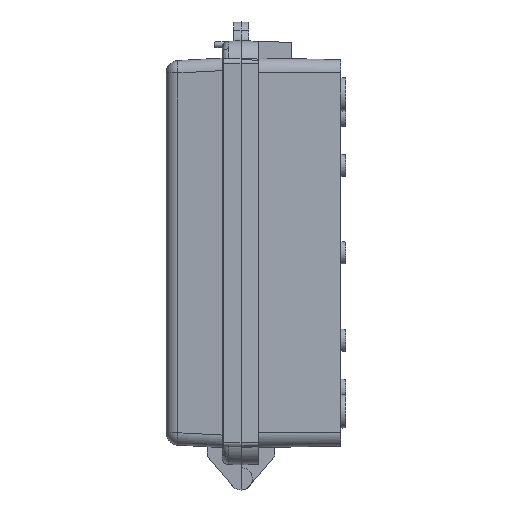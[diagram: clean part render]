
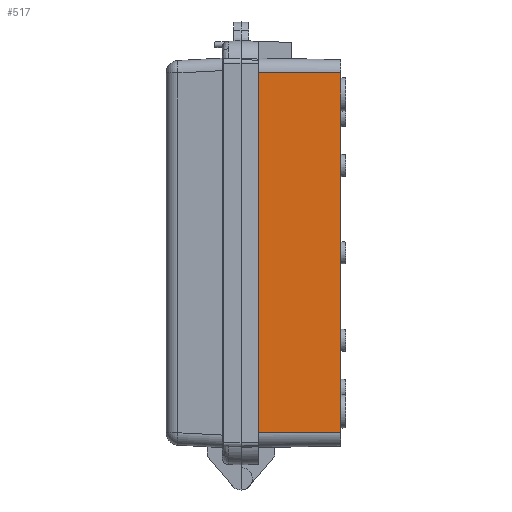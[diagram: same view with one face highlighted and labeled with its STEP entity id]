
A CAD part, left-side view. The second image highlights one B-rep face of the part: STEP entity #517.
In plain terms, the highlighted planar face has unit normal (-1, -0.018, 0).
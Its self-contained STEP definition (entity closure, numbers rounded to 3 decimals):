
#182 = VECTOR ( 'NONE', #11314, 1000. ) ;
#270 = LINE ( 'NONE', #14695, #4671 ) ;
#517 = ADVANCED_FACE ( 'NONE', ( #22492 ), #23178, .T. ) ;
#626 = DIRECTION ( 'NONE',  ( 0.017, -0.996, -0.087 ) ) ;
#687 = CARTESIAN_POINT ( 'NONE',  ( -102.946, -10.072, 0.781 ) ) ;
#738 = LINE ( 'NONE', #7949, #3928 ) ;
#1153 = CARTESIAN_POINT ( 'NONE',  ( -103., -7., -80.079 ) ) ;
#1771 = VERTEX_POINT ( 'NONE', #2602 ) ;
#2450 = VECTOR ( 'NONE', #19117, 1000. ) ;
#2560 = VERTEX_POINT ( 'NONE', #14564 ) ;
#2602 = CARTESIAN_POINT ( 'NONE',  ( -103., -7., 1.05 ) ) ;
#2687 = CARTESIAN_POINT ( 'NONE',  ( -103.07, -3., -80.079 ) ) ;
#2876 = DIRECTION ( 'NONE',  ( 0.017, -1., 0. ) ) ;
#2931 = LINE ( 'NONE', #12257, #22420 ) ;
#3139 = ORIENTED_EDGE ( 'NONE', *, *, #18903, .T. ) ;
#3262 = EDGE_CURVE ( 'NONE', #6326, #20591, #12348, .T. ) ;
#3379 = EDGE_CURVE ( 'NONE', #11798, #7036, #5727, .T. ) ;
#3797 = LINE ( 'NONE', #17869, #4330 ) ;
#3928 = VECTOR ( 'NONE', #9851, 1000. ) ;
#4330 = VECTOR ( 'NONE', #11131, 1000. ) ;
#4584 = LINE ( 'NONE', #2687, #2450 ) ;
#4671 = VECTOR ( 'NONE', #16121, 1000. ) ;
#5107 = CARTESIAN_POINT ( 'NONE',  ( -103.07, -3., -58.6 ) ) ;
#5114 = ORIENTED_EDGE ( 'NONE', *, *, #3262, .T. ) ;
#5355 = ORIENTED_EDGE ( 'NONE', *, *, #13994, .T. ) ;
#5429 = VECTOR ( 'NONE', #2876, 1000. ) ;
#5727 = LINE ( 'NONE', #21817, #8264 ) ;
#5750 = CARTESIAN_POINT ( 'NONE',  ( -103., -7., 61.05 ) ) ;
#5922 = CARTESIAN_POINT ( 'NONE',  ( -103.07, -3., -61.4 ) ) ;
#6096 = ORIENTED_EDGE ( 'NONE', *, *, #14063, .T. ) ;
#6283 = DIRECTION ( 'NONE',  ( 0., 0., -1. ) ) ;
#6326 = VERTEX_POINT ( 'NONE', #21040 ) ;
#6392 = ORIENTED_EDGE ( 'NONE', *, *, #19018, .T. ) ;
#6463 = EDGE_CURVE ( 'NONE', #7036, #10058, #7074, .T. ) ;
#6620 = EDGE_CURVE ( 'NONE', #14678, #19859, #20425, .T. ) ;
#6793 = ORIENTED_EDGE ( 'NONE', *, *, #13205, .T. ) ;
#6833 = EDGE_LOOP ( 'NONE', ( #16767, #15229, #6392, #3139, #5114, #15879, #13711, #20091, #6096, #22334, #5355, #17579, #6793, #11580, #8570, #19823 ) ) ;
#7036 = VERTEX_POINT ( 'NONE', #11408 ) ;
#7074 = LINE ( 'NONE', #8968, #15772 ) ;
#7728 = LINE ( 'NONE', #11510, #5429 ) ;
#7876 = CARTESIAN_POINT ( 'NONE',  ( -103.28, 9.037, 57.547 ) ) ;
#7949 = CARTESIAN_POINT ( 'NONE',  ( -103., -7., -80.079 ) ) ;
#8264 = VECTOR ( 'NONE', #18137, 1000. ) ;
#8568 = VERTEX_POINT ( 'NONE', #5107 ) ;
#8570 = ORIENTED_EDGE ( 'NONE', *, *, #12699, .T. ) ;
#8968 = CARTESIAN_POINT ( 'NONE',  ( -103.098, -1.379, -61.542 ) ) ;
#9083 = DIRECTION ( 'NONE',  ( -0.017, 0.996, -0.087 ) ) ;
#9617 = CARTESIAN_POINT ( 'NONE',  ( -103.037, -4.864, -58.763 ) ) ;
#9620 = EDGE_CURVE ( 'NONE', #20591, #2560, #270, .T. ) ;
#9851 = DIRECTION ( 'NONE',  ( 0., 0., -1. ) ) ;
#9933 = CARTESIAN_POINT ( 'NONE',  ( -103.07, -3., 58.6 ) ) ;
#10008 = CARTESIAN_POINT ( 'NONE',  ( -103., -7., -1.05 ) ) ;
#10058 = VERTEX_POINT ( 'NONE', #5922 ) ;
#10149 = LINE ( 'NONE', #1153, #18307 ) ;
#10460 = VERTEX_POINT ( 'NONE', #18859 ) ;
#10596 = DIRECTION ( 'NONE',  ( 0., 0., 1. ) ) ;
#10908 = EDGE_CURVE ( 'NONE', #15705, #13381, #20737, .T. ) ;
#11131 = DIRECTION ( 'NONE',  ( 0., 0., -1. ) ) ;
#11314 = DIRECTION ( 'NONE',  ( -0.017, 0.996, -0.087 ) ) ;
#11408 = CARTESIAN_POINT ( 'NONE',  ( -103., -7., -61.05 ) ) ;
#11510 = CARTESIAN_POINT ( 'NONE',  ( -103.07, -3., -72.071 ) ) ;
#11580 = ORIENTED_EDGE ( 'NONE', *, *, #10908, .T. ) ;
#11798 = VERTEX_POINT ( 'NONE', #12597 ) ;
#11812 = CARTESIAN_POINT ( 'NONE',  ( -103.07, -3., 61.4 ) ) ;
#12070 = AXIS2_PLACEMENT_3D ( 'NONE', #16207, #15854, #21291 ) ;
#12257 = CARTESIAN_POINT ( 'NONE',  ( -103.07, -3., -80.079 ) ) ;
#12348 = LINE ( 'NONE', #12470, #16186 ) ;
#12367 = CARTESIAN_POINT ( 'NONE',  ( -103.07, -3., -72.071 ) ) ;
#12470 = CARTESIAN_POINT ( 'NONE',  ( -102.424, -40., -80.079 ) ) ;
#12597 = CARTESIAN_POINT ( 'NONE',  ( -103., -7., -58.95 ) ) ;
#12699 = EDGE_CURVE ( 'NONE', #13381, #8568, #2931, .T. ) ;
#12741 = VECTOR ( 'NONE', #22073, 1000. ) ;
#13205 = EDGE_CURVE ( 'NONE', #1771, #15705, #738, .T. ) ;
#13381 = VERTEX_POINT ( 'NONE', #13854 ) ;
#13632 = VERTEX_POINT ( 'NONE', #9933 ) ;
#13711 = ORIENTED_EDGE ( 'NONE', *, *, #18047, .T. ) ;
#13798 = DIRECTION ( 'NONE',  ( 0., 0., -1. ) ) ;
#13854 = CARTESIAN_POINT ( 'NONE',  ( -103.07, -3., -1.4 ) ) ;
#13994 = EDGE_CURVE ( 'NONE', #13632, #15257, #4584, .T. ) ;
#14063 = EDGE_CURVE ( 'NONE', #19859, #10460, #10149, .T. ) ;
#14564 = CARTESIAN_POINT ( 'NONE',  ( -103.07, -3., 72.071 ) ) ;
#14678 = VERTEX_POINT ( 'NONE', #11812 ) ;
#14695 = CARTESIAN_POINT ( 'NONE',  ( -103.07, -3., 72.071 ) ) ;
#14785 = CARTESIAN_POINT ( 'NONE',  ( -103.07, -3., -80.079 ) ) ;
#14906 = LINE ( 'NONE', #14785, #17116 ) ;
#15229 = ORIENTED_EDGE ( 'NONE', *, *, #6463, .T. ) ;
#15257 = VERTEX_POINT ( 'NONE', #21023 ) ;
#15373 = VERTEX_POINT ( 'NONE', #12367 ) ;
#15705 = VERTEX_POINT ( 'NONE', #10008 ) ;
#15772 = VECTOR ( 'NONE', #9083, 1000. ) ;
#15854 = DIRECTION ( 'NONE',  ( -1., -0.017, 0. ) ) ;
#15879 = ORIENTED_EDGE ( 'NONE', *, *, #9620, .T. ) ;
#16121 = DIRECTION ( 'NONE',  ( -0.017, 1., 0. ) ) ;
#16186 = VECTOR ( 'NONE', #10596, 1000. ) ;
#16207 = CARTESIAN_POINT ( 'NONE',  ( -103.07, -3., -80.079 ) ) ;
#16744 = CARTESIAN_POINT ( 'NONE',  ( -102.855, -15.28, 60.326 ) ) ;
#16767 = ORIENTED_EDGE ( 'NONE', *, *, #3379, .T. ) ;
#17116 = VECTOR ( 'NONE', #6283, 1000. ) ;
#17579 = ORIENTED_EDGE ( 'NONE', *, *, #18469, .T. ) ;
#17651 = VECTOR ( 'NONE', #18834, 1000. ) ;
#17756 = EDGE_CURVE ( 'NONE', #8568, #11798, #20386, .T. ) ;
#17869 = CARTESIAN_POINT ( 'NONE',  ( -103.07, -3., -80.079 ) ) ;
#17872 = VECTOR ( 'NONE', #18301, 1000. ) ;
#18047 = EDGE_CURVE ( 'NONE', #2560, #14678, #14906, .T. ) ;
#18137 = DIRECTION ( 'NONE',  ( 0., 0., -1. ) ) ;
#18301 = DIRECTION ( 'NONE',  ( 0.017, -0.996, -0.087 ) ) ;
#18307 = VECTOR ( 'NONE', #13798, 1000. ) ;
#18469 = EDGE_CURVE ( 'NONE', #15257, #1771, #20082, .T. ) ;
#18834 = DIRECTION ( 'NONE',  ( -0.017, 0.996, -0.087 ) ) ;
#18859 = CARTESIAN_POINT ( 'NONE',  ( -103., -7., 58.95 ) ) ;
#18903 = EDGE_CURVE ( 'NONE', #15373, #6326, #7728, .T. ) ;
#19018 = EDGE_CURVE ( 'NONE', #10058, #15373, #3797, .T. ) ;
#19117 = DIRECTION ( 'NONE',  ( 0., 0., -1. ) ) ;
#19475 = CARTESIAN_POINT ( 'NONE',  ( -102.424, -40., 72.071 ) ) ;
#19823 = ORIENTED_EDGE ( 'NONE', *, *, #17756, .T. ) ;
#19859 = VERTEX_POINT ( 'NONE', #5750 ) ;
#19920 = EDGE_CURVE ( 'NONE', #10460, #13632, #20173, .T. ) ;
#20082 = LINE ( 'NONE', #687, #17872 ) ;
#20091 = ORIENTED_EDGE ( 'NONE', *, *, #6620, .T. ) ;
#20173 = LINE ( 'NONE', #7876, #182 ) ;
#20386 = LINE ( 'NONE', #9617, #22644 ) ;
#20425 = LINE ( 'NONE', #16744, #12741 ) ;
#20591 = VERTEX_POINT ( 'NONE', #19475 ) ;
#20737 = LINE ( 'NONE', #20852, #17651 ) ;
#20852 = CARTESIAN_POINT ( 'NONE',  ( -103.189, 3.829, -1.997 ) ) ;
#20908 = DIRECTION ( 'NONE',  ( 0., 0., -1. ) ) ;
#21023 = CARTESIAN_POINT ( 'NONE',  ( -103.07, -3., 1.4 ) ) ;
#21040 = CARTESIAN_POINT ( 'NONE',  ( -102.424, -40., -72.071 ) ) ;
#21291 = DIRECTION ( 'NONE',  ( 0.017, -1., 0. ) ) ;
#21817 = CARTESIAN_POINT ( 'NONE',  ( -103., -7., -80.079 ) ) ;
#22073 = DIRECTION ( 'NONE',  ( 0.017, -0.996, -0.087 ) ) ;
#22334 = ORIENTED_EDGE ( 'NONE', *, *, #19920, .T. ) ;
#22420 = VECTOR ( 'NONE', #20908, 1000. ) ;
#22492 = FACE_OUTER_BOUND ( 'NONE', #6833, .T. ) ;
#22644 = VECTOR ( 'NONE', #626, 1000. ) ;
#23178 = PLANE ( 'NONE',  #12070 ) ;
